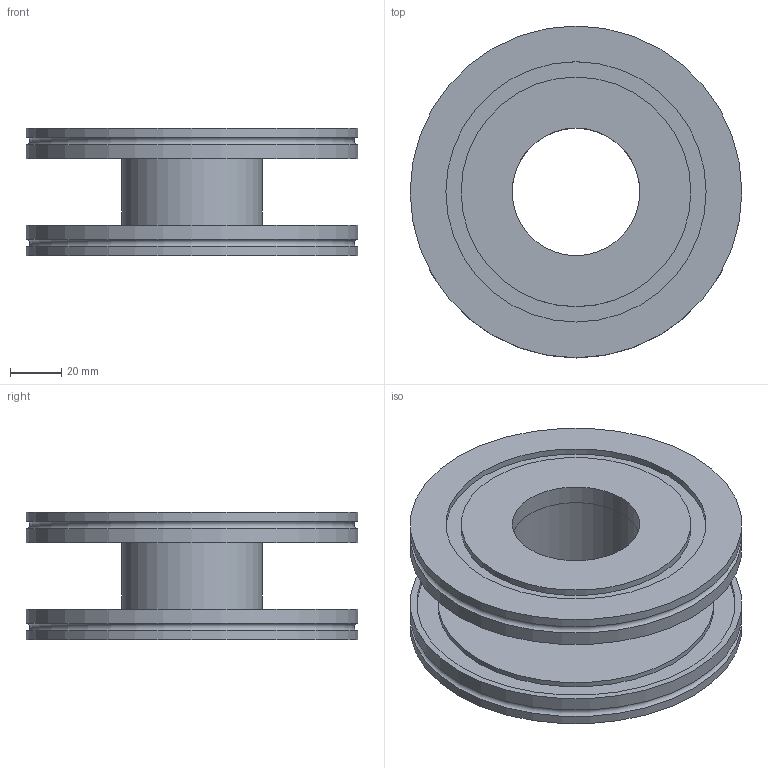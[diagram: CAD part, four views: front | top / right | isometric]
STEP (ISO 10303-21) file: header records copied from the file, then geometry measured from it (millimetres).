
FILE_DESCRIPTION( ( 'Unknown' ), '1' );
FILE_NAME( 'X:/Daten ( aktueller Bestand )/Projekte und Zeichnungen/Solid Edge/9 ISO-K Verzweigungen/ISO-K-KF-Übergangsstücke/6185.stp', 'Unknown', ( 'Unknown' ), ( 'Unknown' ), 'XStep 1.0', 'Unknown', ' ' );
FILE_SCHEMA( ( 'automotive_design' ) );
Length unit declared in the file: millimetre
Products named in the file (3): Assem1; 6185-1; 6185-2
Bounding box: 130 x 130 x 50 mm (x, y, z)
Volume: 294590.5 mm3; surface area: 103738 mm2
Topology: 4 solids, 4 shells, 48 faces, 76 edges, 48 vertices
Faces by surface type: cylinder 24, plane 20, cone 2, torus 2
Full cylindrical faces by diameter (mm): 50 x4, 52.2 x2, 55 x2, 55.5 x2, 75 x2, 90 x2, 102 x2, 108 x2, 125 x2, 130 x4
Entity records: 672 total; most frequent: DIRECTION 102, CARTESIAN_POINT 75, AXIS2_PLACEMENT_3D 51, EDGE_LOOP 48, ORIENTED_EDGE 48, FACE_OUTER_BOUND 37, ADVANCED_FACE 24, EDGE_CURVE 24
